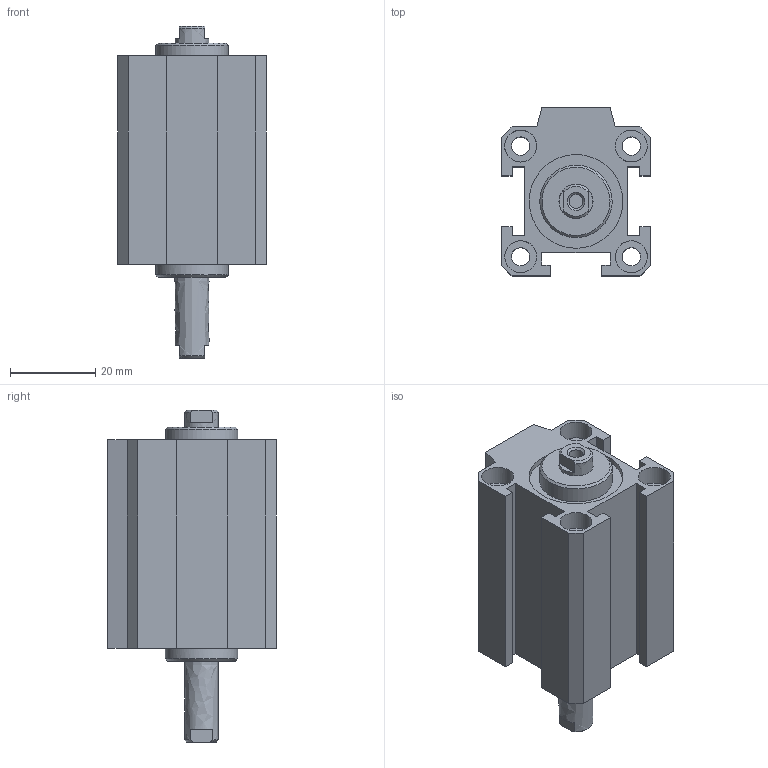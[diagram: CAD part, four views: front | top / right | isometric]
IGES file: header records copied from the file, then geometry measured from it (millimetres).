
Global section: file name: 1514_20_0015; native system: Autodesk Inventor 2014; preprocessor: unknown; author: A. Manieri; date: 20160824.110425; units: millimetre
Bounding box: 35 x 39.5 x 78 mm (x, y, z)
Volume: 44121.9 mm3; surface area: 22073.3 mm2
Topology: 2 solids, 2 shells, 104 faces, 272 edges, 192 vertices
Faces by surface type: bspline 104
